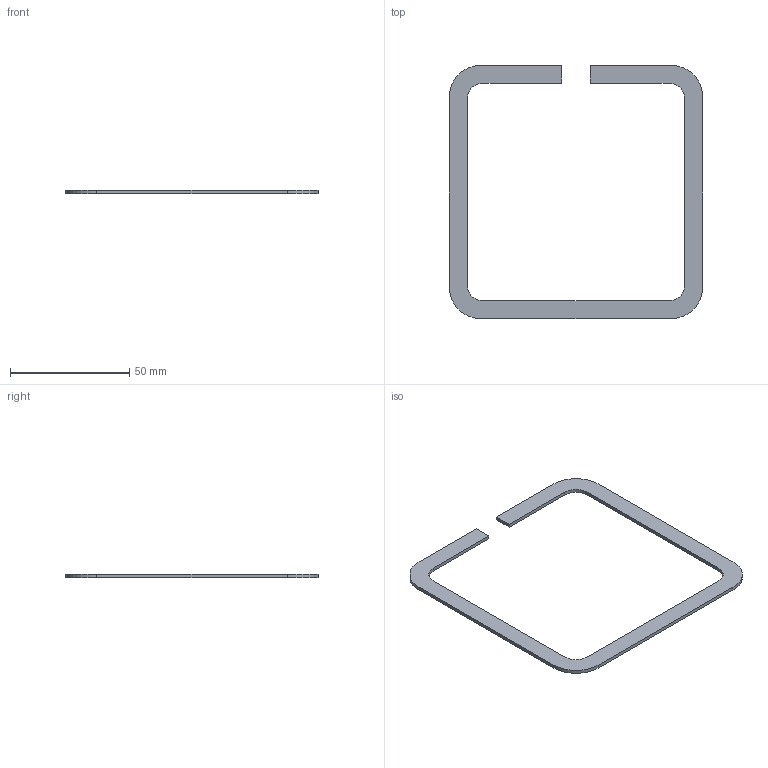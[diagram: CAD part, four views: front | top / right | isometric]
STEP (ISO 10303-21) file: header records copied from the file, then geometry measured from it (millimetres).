
FILE_DESCRIPTION(('Open CASCADE Model'),'2;1');
FILE_NAME('Open CASCADE Shape Model','2026-07-17T20:14:26',('Author'),( 'Open CASCADE'),'Open CASCADE STEP processor 7.7','Open CASCADE 7.7' ,'Unknown');
FILE_SCHEMA(('AUTOMOTIVE_DESIGN { 1 0 10303 214 1 1 1 1 }'));
Length unit declared in the file: millimetre
Products named in the file (1): Open CASCADE STEP translator 7.7 3
Bounding box: 106.1 x 106.1 x 1.5 mm (x, y, z)
Volume: 4112.4 mm3; surface area: 6602.7 mm2
Topology: 1 solids, 1 shells, 22 faces, 60 edges, 40 vertices
Faces by surface type: plane 14, cylinder 8
Entity records: 1474 total; most frequent: CARTESIAN_POINT 331, DIRECTION 194, ORIENTED_EDGE 120, PCURVE 120, DEFINITIONAL_REPRESENTATION 120, LINE 108, VECTOR 108, EDGE_CURVE 60
